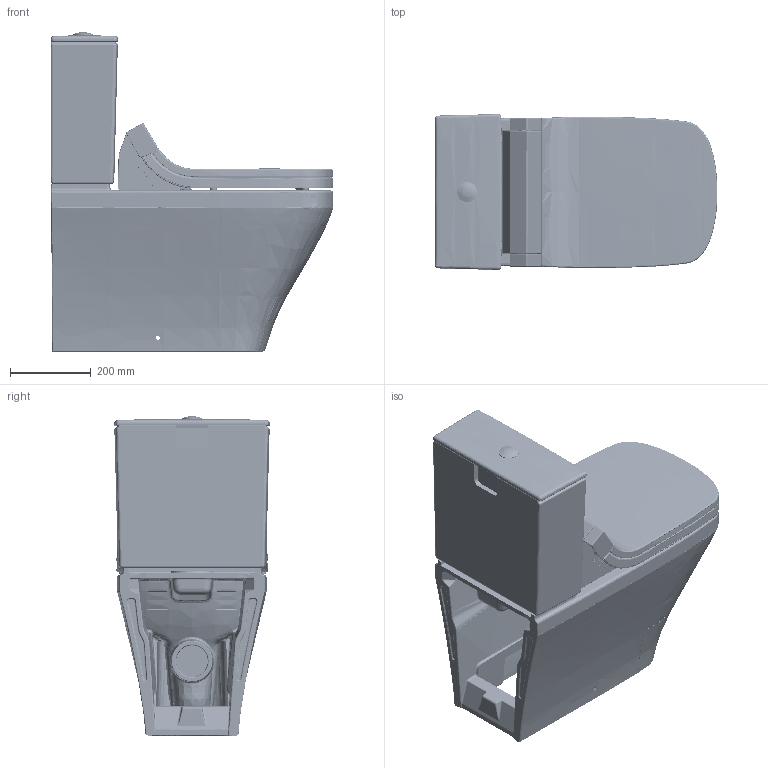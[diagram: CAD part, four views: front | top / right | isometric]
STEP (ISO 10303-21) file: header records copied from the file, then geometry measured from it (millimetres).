
FILE_DESCRIPTION((''),'2;1');
FILE_NAME('C:\Users\Administrator\Desktop\NEWS 2014 Step 1\SensoWash_e mit versch. Serien\3d\stp\215659_1_610200_e.stp','2014-11-13T09:07:53',('Administrator'),(''),'Autodesk Inventor 2011','Autodesk Inventor 2011','');
FILE_SCHEMA(('CONFIG_CONTROL_DESIGN'));
Length unit declared in the file: millimetre
Products named in the file (17): 215659_1_610200_e; 215659; 610200_e; SEAT_ASM; 1F221-A0-01; 1F221-B0-01; 1F218-B0-01; COVERS; BODY-CASE; 1F219-01-01; INFRARED-LEFT; BUTTON-MEMBRANE; LID-CUSHION; PLATE1; PLATE2; 093510; SPK Taster Durastyle
Assembly tree (20 placements, depth 4):
  215659_1_610200_e
    215659
    610200_e
      SEAT_ASM
        1F221-A0-01
        1F221-B0-01
        1F218-B0-01
      COVERS
      BODY-CASE
      1F219-01-01
      INFRARED-LEFT
      BUTTON-MEMBRANE
      LID-CUSHION  x2
      1F218-B0-01  x3
      PLATE1
      PLATE2
    093510
    SPK Taster Durastyle
Bounding box: 700.82 x 387.03 x 792.49 mm (x, y, z)
Volume: 37597680 mm3; surface area: 4137233.6 mm2
Topology: 21 solids, 22 shells, 7168 faces, 18106 edges, 11057 vertices
Faces by surface type: bspline 2911, plane 2289, cylinder 1265, torus 297, cone 291, sphere 115
Full cylindrical faces by diameter (mm): 2 x1, 2.4 x2, 2.5 x1, 2.6 x3, 3.2 x2, 3.8 x1, 4 x6, 4.5 x1, 5 x3, 7.5 x3, 8 x9, 9 x2, 10 x7, 15 x2, 15.2 x2, 18 x1, 20 x2, 28.2 x1, 40 x2, 50 x1, 63 x1
Entity records: 520325 total; most frequent: CARTESIAN_POINT 363573, ORIENTED_EDGE 35590, DIRECTION 25882, EDGE_CURVE 17795, VERTEX_POINT 10955, AXIS2_PLACEMENT_3D 9452, EDGE_LOOP 7486, FACE_OUTER_BOUND 7131
